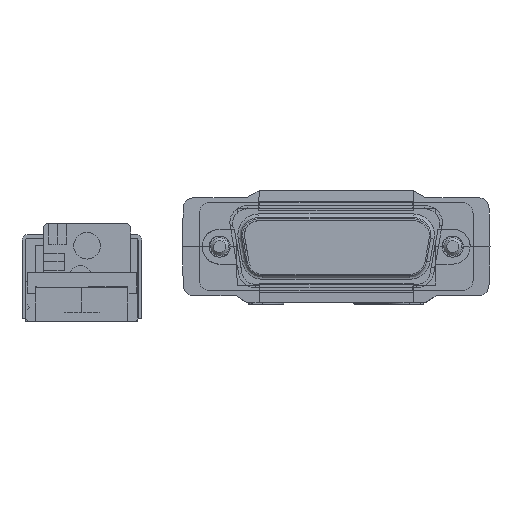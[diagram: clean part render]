
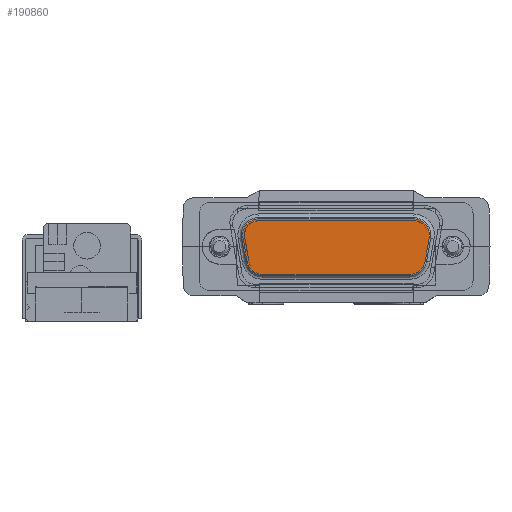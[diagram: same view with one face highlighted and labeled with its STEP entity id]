
A CAD part, left-side view. The second image highlights one B-rep face of the part: STEP entity #190860.
In plain terms, the highlighted planar face has unit normal (-1, 0, 0) as drawn and (1, 0, 0) by its records, which use the part's own axes.
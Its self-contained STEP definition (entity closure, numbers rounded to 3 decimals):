
#107010=CARTESIAN_POINT('',(-10.578,-37.393,
1.67));
#107020=DIRECTION('',(1.,0.,0.));
#107030=DIRECTION('',(0.,-1.,0.));
#107040=AXIS2_PLACEMENT_3D('',#107010,#107020,#107030);
#107050=CIRCLE('',#107040,2.05);
#107060=CARTESIAN_POINT('',(-10.578,-35.374,
2.026));
#107070=VERTEX_POINT('',#107060);
#107080=CARTESIAN_POINT('',(-10.578,-35.653,
2.755));
#107090=VERTEX_POINT('',#107080);
#107100=EDGE_CURVE('',#107070,#107090,#107050,.T.);
#132550=CARTESIAN_POINT('',(-10.578,-58.929,
-3.696));
#132560=VERTEX_POINT('',#132550);
#132610=CARTESIAN_POINT('',(-10.578,-44.902,
-3.696));
#132620=DIRECTION('',(0.,-1.,0.));
#132630=VECTOR('',#132620,1.);
#132640=LINE('',#132610,#132630);
#132650=CARTESIAN_POINT('',(-10.578,-36.819,
-3.696));
#132660=VERTEX_POINT('',#132650);
#132670=EDGE_CURVE('',#132660,#132560,#132640,.T.);
#133050=CARTESIAN_POINT('',(-10.578,-60.669,
-2.73));
#133060=VERTEX_POINT('',#133050);
#133090=CARTESIAN_POINT('',(-10.578,-58.929,
-1.646));
#133100=DIRECTION('',(1.,0.,0.));
#133110=DIRECTION('',(0.,-1.,0.));
#133120=AXIS2_PLACEMENT_3D('',#133090,#133100,#133110);
#133130=CIRCLE('',#133120,2.05);
#133140=EDGE_CURVE('',#133060,#132560,#133130,.T.);
#185400=CARTESIAN_POINT('',(-10.578,-34.8,
-1.29));
#185410=VERTEX_POINT('',#185400);
#185540=CARTESIAN_POINT('',(-10.578,-36.819,
-1.646));
#185550=DIRECTION('',(1.,0.,0.));
#185560=DIRECTION('',(0.,-1.,0.));
#185570=AXIS2_PLACEMENT_3D('',#185540,#185550,#185560);
#185580=CIRCLE('',#185570,2.05);
#185590=EDGE_CURVE('',#132660,#185410,#185580,.T.);
#188390=CARTESIAN_POINT('',(-10.578,-35.389,
2.05));
#188400=VERTEX_POINT('',#188390);
#188520=CARTESIAN_POINT('',(-10.578,-34.8,
-1.29));
#188530=DIRECTION('',(0.,-0.174,
0.985));
#188540=VECTOR('',#188530,1.);
#188550=LINE('',#188520,#188540);
#188560=EDGE_CURVE('',#185410,#188400,#188550,.T.);
#189090=CARTESIAN_POINT('',(-10.578,-34.785,
-1.314));
#189100=VERTEX_POINT('',#189090);
#189130=CARTESIAN_POINT('',(-10.578,-36.804,
-1.67));
#189140=DIRECTION('',(1.,0.,0.));
#189150=DIRECTION('',(0.,-1.,0.));
#189160=AXIS2_PLACEMENT_3D('',#189130,#189140,#189150);
#189170=CIRCLE('',#189160,2.05);
#189180=CARTESIAN_POINT('',(-10.578,-36.804,
-3.72));
#189190=VERTEX_POINT('',#189180);
#189200=EDGE_CURVE('',#189190,#189100,#189170,.T.);
#189450=CARTESIAN_POINT('',(-10.578,-36.128,
6.3));
#189460=DIRECTION('',(0.,-0.174,
0.985));
#189470=VECTOR('',#189460,1.);
#189480=LINE('',#189450,#189470);
#189490=EDGE_CURVE('',#189100,#107070,#189480,.T.);
#189680=CARTESIAN_POINT('',(-10.578,-37.408,
1.694));
#189690=DIRECTION('',(1.,0.,0.));
#189700=DIRECTION('',(0.,-1.,0.));
#189710=AXIS2_PLACEMENT_3D('',#189680,#189690,#189700);
#189720=CIRCLE('',#189710,2.05);
#189730=EDGE_CURVE('',#188400,#107090,#189720,.T.);
#189860=CARTESIAN_POINT('',(-10.578,-29.244,
6.3));
#189870=DIRECTION('',(1.,0.,0.));
#189880=DIRECTION('',(0.,-1.,0.));
#189890=AXIS2_PLACEMENT_3D('',#189860,#189870,#189880);
#189900=PLANE('',#189890);
#189910=ORIENTED_EDGE('',*,*,#189730,.T.);
#189920=ORIENTED_EDGE('',*,*,#188560,.T.);
#189930=ORIENTED_EDGE('',*,*,#185590,.T.);
#189940=ORIENTED_EDGE('',*,*,#132670,.F.);
#189950=ORIENTED_EDGE('',*,*,#133140,.T.);
#189960=CARTESIAN_POINT('',(-10.578,-58.914,
-1.67));
#189970=DIRECTION('',(1.,0.,0.));
#189980=DIRECTION('',(0.,-1.,0.));
#189990=AXIS2_PLACEMENT_3D('',#189960,#189970,#189980);
#190000=CIRCLE('',#189990,2.05);
#190010=CARTESIAN_POINT('',(-10.578,-58.914,
-3.72));
#190020=VERTEX_POINT('',#190010);
#190030=EDGE_CURVE('',#133060,#190020,#190000,.T.);
#190040=ORIENTED_EDGE('',*,*,#190030,.F.);
#190050=CARTESIAN_POINT('',(-10.578,-37.574,
-3.72));
#190060=DIRECTION('',(0.,1.,0.));
#190070=VECTOR('',#190060,1.);
#190080=LINE('',#190050,#190070);
#190090=EDGE_CURVE('',#190020,#189190,#190080,.T.);
#190100=ORIENTED_EDGE('',*,*,#190090,.F.);
#190110=ORIENTED_EDGE('',*,*,#189200,.F.);
#190120=ORIENTED_EDGE('',*,*,#189490,.F.);
#190130=ORIENTED_EDGE('',*,*,#107100,.F.);
#190140=EDGE_LOOP('',(#190130,#190120,#190110,#190100,#190040,#189950,
#189940,#189930,#189920,#189910));
#190150=FACE_BOUND('',#190140,.T.);
#190160=CARTESIAN_POINT('',(-10.578,-37.393,
1.67));
#190170=DIRECTION('',(1.,0.,0.));
#190180=DIRECTION('',(0.,-1.,0.));
#190190=AXIS2_PLACEMENT_3D('',#190160,#190170,#190180);
#190200=CIRCLE('',#190190,2.3);
#190210=CARTESIAN_POINT('',(-10.578,-35.128,
2.069));
#190220=VERTEX_POINT('',#190210);
#190230=CARTESIAN_POINT('',(-10.578,-37.393,
3.97));
#190240=VERTEX_POINT('',#190230);
#190250=EDGE_CURVE('',#190220,#190240,#190200,.T.);
#190260=ORIENTED_EDGE('',*,*,#190250,.T.);
#190270=CARTESIAN_POINT('',(-10.578,-35.874,
6.3));
#190280=DIRECTION('',(0.,-0.174,
0.985));
#190290=VECTOR('',#190280,1.);
#190300=LINE('',#190270,#190290);
#190310=CARTESIAN_POINT('',(-10.578,-34.539,
-1.271));
#190320=VERTEX_POINT('',#190310);
#190330=EDGE_CURVE('',#190320,#190220,#190300,.T.);
#190340=ORIENTED_EDGE('',*,*,#190330,.T.);
#190350=CARTESIAN_POINT('',(-10.578,-36.804,
-1.67));
#190360=DIRECTION('',(1.,0.,0.));
#190370=DIRECTION('',(0.,-1.,0.));
#190380=AXIS2_PLACEMENT_3D('',#190350,#190360,#190370);
#190390=CIRCLE('',#190380,2.3);
#190400=CARTESIAN_POINT('',(-10.578,-36.804,
-3.97));
#190410=VERTEX_POINT('',#190400);
#190420=EDGE_CURVE('',#190410,#190320,#190390,.T.);
#190430=ORIENTED_EDGE('',*,*,#190420,.T.);
#190440=CARTESIAN_POINT('',(-10.578,-37.574,
-3.97));
#190450=DIRECTION('',(0.,-1.,0.));
#190460=VECTOR('',#190450,1.);
#190470=LINE('',#190440,#190460);
#190480=CARTESIAN_POINT('',(-10.578,-58.914,
-3.97));
#190490=VERTEX_POINT('',#190480);
#190500=EDGE_CURVE('',#190410,#190490,#190470,.T.);
#190510=ORIENTED_EDGE('',*,*,#190500,.F.);
#190520=CARTESIAN_POINT('',(-10.578,-58.914,
-1.67));
#190530=DIRECTION('',(1.,0.,0.));
#190540=DIRECTION('',(0.,-1.,0.));
#190550=AXIS2_PLACEMENT_3D('',#190520,#190530,#190540);
#190560=CIRCLE('',#190550,2.3);
#190570=CARTESIAN_POINT('',(-10.578,-61.179,
-1.271));
#190580=VERTEX_POINT('',#190570);
#190590=EDGE_CURVE('',#190580,#190490,#190560,.T.);
#190600=ORIENTED_EDGE('',*,*,#190590,.T.);
#190610=CARTESIAN_POINT('',(-10.578,-59.844,
6.3));
#190620=DIRECTION('',(0.,0.174,
0.985));
#190630=VECTOR('',#190620,1.);
#190640=LINE('',#190610,#190630);
#190650=CARTESIAN_POINT('',(-10.578,-60.59,
2.069));
#190660=VERTEX_POINT('',#190650);
#190670=EDGE_CURVE('',#190580,#190660,#190640,.T.);
#190680=ORIENTED_EDGE('',*,*,#190670,.F.);
#190690=CARTESIAN_POINT('',(-10.578,-58.325,
1.67));
#190700=DIRECTION('',(1.,0.,0.));
#190710=DIRECTION('',(0.,-1.,0.));
#190720=AXIS2_PLACEMENT_3D('',#190690,#190700,#190710);
#190730=CIRCLE('',#190720,2.3);
#190740=CARTESIAN_POINT('',(-10.578,-58.325,
3.97));
#190750=VERTEX_POINT('',#190740);
#190760=EDGE_CURVE('',#190750,#190660,#190730,.T.);
#190770=ORIENTED_EDGE('',*,*,#190760,.T.);
#190780=CARTESIAN_POINT('',(-10.578,-29.244,
3.97));
#190790=DIRECTION('',(0.,-1.,0.));
#190800=VECTOR('',#190790,1.);
#190810=LINE('',#190780,#190800);
#190820=EDGE_CURVE('',#190240,#190750,#190810,.T.);
#190830=ORIENTED_EDGE('',*,*,#190820,.T.);
#190840=EDGE_LOOP('',(#190830,#190770,#190680,#190600,#190510,#190430,
#190340,#190260));
#190850=FACE_OUTER_BOUND('',#190840,.T.);
#190860=ADVANCED_FACE('',(#190150,#190850),#189900,.T.);
